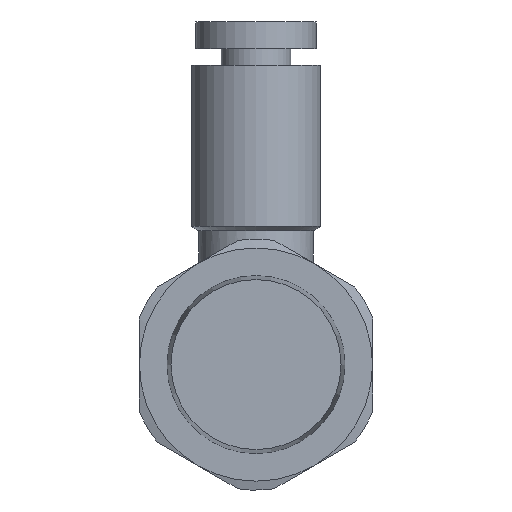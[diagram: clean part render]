
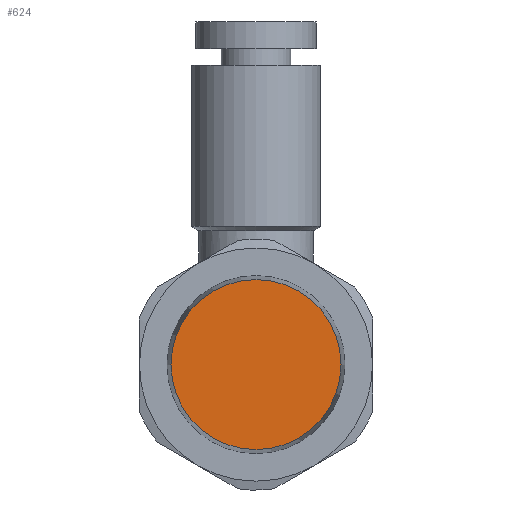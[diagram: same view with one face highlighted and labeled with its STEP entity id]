
A CAD part, front view. The second image highlights one B-rep face of the part: STEP entity #624.
In plain terms, the highlighted planar face has unit normal (0, -1, 0).
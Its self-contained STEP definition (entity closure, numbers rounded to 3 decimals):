
#55=PLANE('',#711);
#210=ORIENTED_EDGE('',*,*,#327,.T.);
#327=EDGE_CURVE('',#390,#390,#428,.T.);
#390=VERTEX_POINT('',#1174);
#428=CIRCLE('',#712,4.739);
#483=EDGE_LOOP('',(#210));
#551=FACE_BOUND('',#483,.T.);
#624=ADVANCED_FACE('',(#551),#55,.F.);
#711=AXIS2_PLACEMENT_3D('',#1172,#871,#872);
#712=AXIS2_PLACEMENT_3D('',#1173,#873,#874);
#871=DIRECTION('',(0.,1.,0.));
#872=DIRECTION('',(-1.,0.,0.));
#873=DIRECTION('',(0.,-1.,0.));
#874=DIRECTION('',(1.,0.,0.));
#1172=CARTESIAN_POINT('',(4.739,-3.1,0.));
#1173=CARTESIAN_POINT('',(0.,-3.1,0.));
#1174=CARTESIAN_POINT('',(4.739,-3.1,0.));
